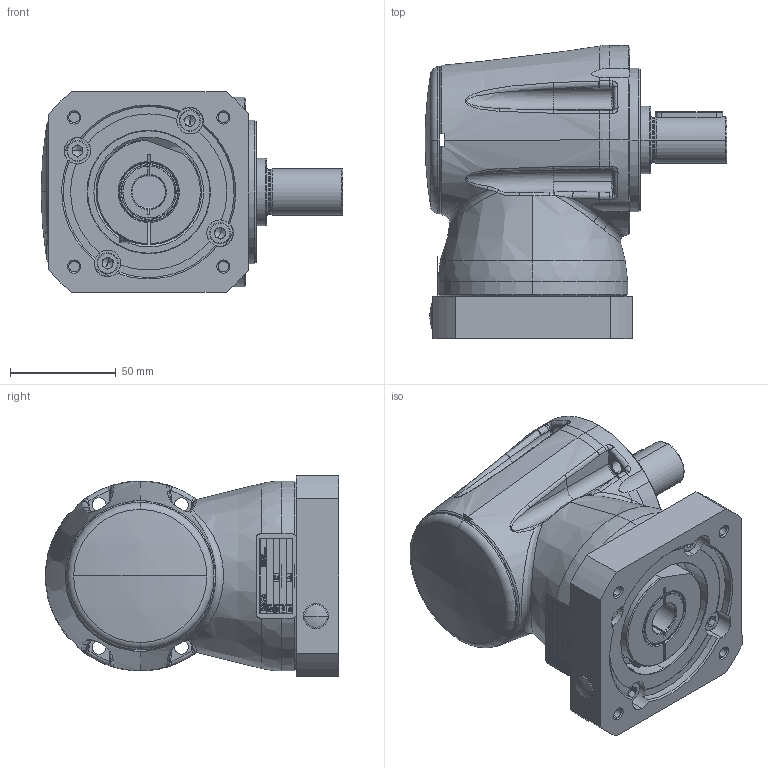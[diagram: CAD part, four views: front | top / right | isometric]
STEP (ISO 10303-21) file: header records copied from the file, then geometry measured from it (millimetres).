
FILE_DESCRIPTION (( 'STEP AP214' ), '1' );
FILE_NAME ('SL-020-001-FFF-MMM-S-LL-XXX-AXX-0000.STEP', '2019-10-30T16:15:27', ( '' ), ( '' ), 'SwSTEP 2.0', 'SolidWorks 2019', '' );
FILE_SCHEMA (( 'AUTOMOTIVE_DESIGN' ));
Length unit declared in the file: millimetre
Products named in the file (1): SL-020-001-FFF-MMM-S-LL-XXX-AXX-0000
Bounding box: 143 x 138.94 x 95 mm (x, y, z)
Surface area: 96917.5 mm2 (no closed solid volume)
Topology: 0 solids, 81 shells, 624 faces, 3001 edges, 2413 vertices
Faces by surface type: plane 183, cylinder 129, cone 90, torus 81, bspline 77, sphere 64
Entity records: 52277 total; most frequent: CARTESIAN_POINT 23943, ORIENTED_EDGE 4259, DIRECTION 3615, EDGE_CURVE 2993, VERTEX_POINT 2413, AXIS2_PLACEMENT_3D 1245, B_SPLINE_CURVE_WITH_KNOTS 1144, LINE 1125
